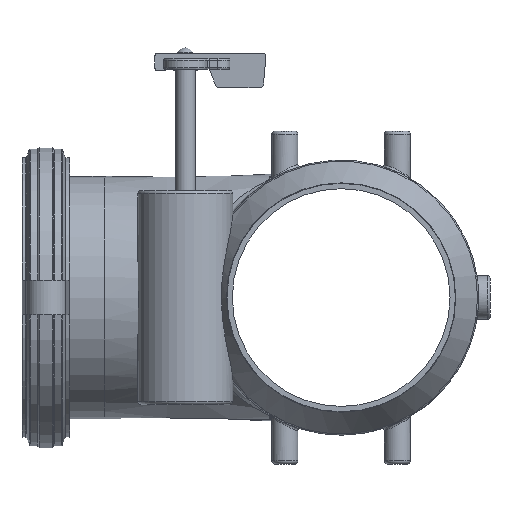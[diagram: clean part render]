
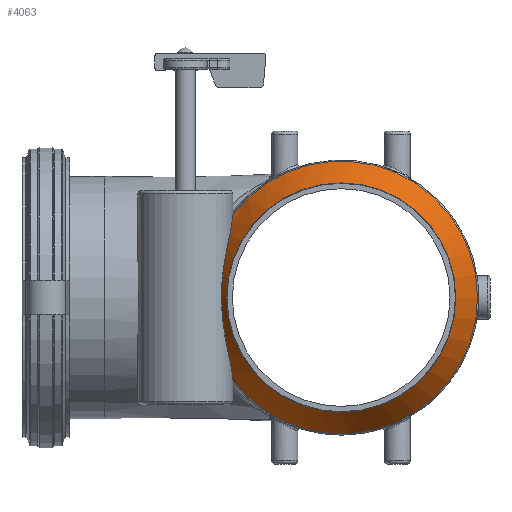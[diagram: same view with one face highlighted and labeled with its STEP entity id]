
A CAD part, left-side view. The second image highlights one B-rep face of the part: STEP entity #4063.
In plain terms, the highlighted conical face has half-angle 30 degrees and reference radius 184.256 mm.
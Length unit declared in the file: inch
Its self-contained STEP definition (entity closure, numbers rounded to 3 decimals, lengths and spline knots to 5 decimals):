
#80=CONICAL_SURFACE('',#4504,7.25419,0.524);
#182=B_SPLINE_CURVE_WITH_KNOTS('',3,(#8614,#8615,#8616,#8617,#8618,#8619,
#8620,#8621,#8622,#8623,#8624,#8625,#8626,#8627,#8628,#8629,#8630,#8631,
#8632,#8633,#8634,#8635,#8636,#8637,#8638,#8639,#8640,#8641,#8642,#8643),
 .UNSPECIFIED.,.F.,.F.,(4,2,2,2,2,2,2,2,2,2,2,2,2,2,4),(22.39908,
22.67746,25.83409,28.99072,30.56903,32.14734,
33.72566,35.30397,36.88228,38.4606,40.03891,
41.61723,44.77385,47.93048,48.20886),
 .UNSPECIFIED.);
#554=CIRCLE('',#4505,6.62546);
#555=CIRCLE('',#4506,6.62546);
#556=CIRCLE('',#4507,7.88292);
#557=CIRCLE('',#4508,7.88292);
#558=CIRCLE('',#4509,6.62546);
#804=FACE_OUTER_BOUND('',#1040,.T.);
#1040=EDGE_LOOP('',(#3461,#3462,#3463,#3464,#3465,#3466,#3467,#3468));
#1256=LINE('',#8817,#1461);
#1461=VECTOR('',#5594,7.25419);
#1771=VERTEX_POINT('',#8604);
#1772=VERTEX_POINT('',#8613);
#1798=VERTEX_POINT('',#8811);
#1799=VERTEX_POINT('',#8812);
#1800=VERTEX_POINT('',#8814);
#1801=VERTEX_POINT('',#8816);
#2307=EDGE_CURVE('',#1772,#1771,#182,.T.);
#2364=EDGE_CURVE('',#1798,#1799,#554,.T.);
#2365=EDGE_CURVE('',#1800,#1798,#555,.T.);
#2366=EDGE_CURVE('',#1800,#1801,#1256,.T.);
#2367=EDGE_CURVE('',#1801,#1772,#556,.T.);
#2368=EDGE_CURVE('',#1771,#1801,#557,.T.);
#2369=EDGE_CURVE('',#1799,#1800,#558,.T.);
#3461=ORIENTED_EDGE('',*,*,#2364,.F.);
#3462=ORIENTED_EDGE('',*,*,#2365,.F.);
#3463=ORIENTED_EDGE('',*,*,#2366,.T.);
#3464=ORIENTED_EDGE('',*,*,#2367,.T.);
#3465=ORIENTED_EDGE('',*,*,#2307,.T.);
#3466=ORIENTED_EDGE('',*,*,#2368,.T.);
#3467=ORIENTED_EDGE('',*,*,#2366,.F.);
#3468=ORIENTED_EDGE('',*,*,#2369,.F.);
#4063=ADVANCED_FACE('',(#804),#80,.T.);
#4504=AXIS2_PLACEMENT_3D('',#8810,#5588,#5589);
#4505=AXIS2_PLACEMENT_3D('',#8813,#5590,#5591);
#4506=AXIS2_PLACEMENT_3D('',#8815,#5592,#5593);
#4507=AXIS2_PLACEMENT_3D('',#8818,#5595,#5596);
#4508=AXIS2_PLACEMENT_3D('',#8819,#5597,#5598);
#4509=AXIS2_PLACEMENT_3D('',#8820,#5599,#5600);
#5588=DIRECTION('center_axis',(1.,0.,0.));
#5589=DIRECTION('ref_axis',(0.,1.,0.));
#5590=DIRECTION('center_axis',(-1.,0.,0.));
#5591=DIRECTION('ref_axis',(0.,0.,1.));
#5592=DIRECTION('center_axis',(-1.,0.,0.));
#5593=DIRECTION('ref_axis',(0.,0.,1.));
#5594=DIRECTION('',(0.866,-0.5,0.));
#5595=DIRECTION('center_axis',(-1.,0.,0.));
#5596=DIRECTION('ref_axis',(0.,0.,1.));
#5597=DIRECTION('center_axis',(-1.,0.,0.));
#5598=DIRECTION('ref_axis',(0.,0.,1.));
#5599=DIRECTION('center_axis',(-1.,0.,0.));
#5600=DIRECTION('ref_axis',(0.,0.,1.));
#8604=CARTESIAN_POINT('',(-6.86618,6.26246,-4.78769));
#8613=CARTESIAN_POINT('',(-6.86618,6.26246,4.78769));
#8614=CARTESIAN_POINT('Ctrl Pts',(-6.86618,6.26246,4.78769));
#8615=CARTESIAN_POINT('Ctrl Pts',(-6.89253,6.26358,4.76118));
#8616=CARTESIAN_POINT('Ctrl Pts',(-6.91828,6.26506,4.73463));
#8617=CARTESIAN_POINT('Ctrl Pts',(-7.22797,6.28697,4.40779));
#8618=CARTESIAN_POINT('Ctrl Pts',(-7.47308,6.34813,4.07005));
#8619=CARTESIAN_POINT('Ctrl Pts',(-7.8839,6.4961,3.33883));
#8620=CARTESIAN_POINT('Ctrl Pts',(-8.04907,6.58294,2.94504));
#8621=CARTESIAN_POINT('Ctrl Pts',(-8.23974,6.69917,2.33023));
#8622=CARTESIAN_POINT('Ctrl Pts',(-8.29391,6.7357,2.12122));
#8623=CARTESIAN_POINT('Ctrl Pts',(-8.3848,6.80042,1.69864));
#8624=CARTESIAN_POINT('Ctrl Pts',(-8.42153,6.82861,1.48508));
#8625=CARTESIAN_POINT('Ctrl Pts',(-8.4791,6.87417,1.05731));
#8626=CARTESIAN_POINT('Ctrl Pts',(-8.49995,6.89154,0.84308));
#8627=CARTESIAN_POINT('Ctrl Pts',(-8.52728,6.91453,0.41799));
#8628=CARTESIAN_POINT('Ctrl Pts',(-8.53376,6.92015,0.20713));
#8629=CARTESIAN_POINT('Ctrl Pts',(-8.53376,6.92015,-0.20713));
#8630=CARTESIAN_POINT('Ctrl Pts',(-8.52728,6.91453,-0.41799));
#8631=CARTESIAN_POINT('Ctrl Pts',(-8.49995,6.89154,-0.84308));
#8632=CARTESIAN_POINT('Ctrl Pts',(-8.4791,6.87417,-1.05731));
#8633=CARTESIAN_POINT('Ctrl Pts',(-8.42153,6.82861,-1.48508));
#8634=CARTESIAN_POINT('Ctrl Pts',(-8.3848,6.80042,-1.69864));
#8635=CARTESIAN_POINT('Ctrl Pts',(-8.29391,6.7357,-2.12122));
#8636=CARTESIAN_POINT('Ctrl Pts',(-8.23974,6.69917,-2.33023));
#8637=CARTESIAN_POINT('Ctrl Pts',(-8.04907,6.58294,-2.94504));
#8638=CARTESIAN_POINT('Ctrl Pts',(-7.8839,6.4961,-3.33883));
#8639=CARTESIAN_POINT('Ctrl Pts',(-7.47308,6.34813,-4.07005));
#8640=CARTESIAN_POINT('Ctrl Pts',(-7.22797,6.28697,-4.40779));
#8641=CARTESIAN_POINT('Ctrl Pts',(-6.91828,6.26506,-4.73463));
#8642=CARTESIAN_POINT('Ctrl Pts',(-6.89253,6.26358,-4.76118));
#8643=CARTESIAN_POINT('Ctrl Pts',(-6.86618,6.26246,-4.78769));
#8810=CARTESIAN_POINT('Origin',(-7.95518,0.,0.));
#8811=CARTESIAN_POINT('',(-9.04418,6.62546,0.));
#8812=CARTESIAN_POINT('',(-9.04418,0.,-6.62546));
#8813=CARTESIAN_POINT('Origin',(-9.04418,0.,0.));
#8814=CARTESIAN_POINT('',(-9.04418,-6.62546,0.));
#8815=CARTESIAN_POINT('Origin',(-9.04418,0.,0.));
#8816=CARTESIAN_POINT('',(-6.86618,-7.88292,0.));
#8817=CARTESIAN_POINT('',(-7.95518,-7.25419,0.));
#8818=CARTESIAN_POINT('Origin',(-6.86618,0.,0.));
#8819=CARTESIAN_POINT('Origin',(-6.86618,0.,0.));
#8820=CARTESIAN_POINT('Origin',(-9.04418,0.,0.));
